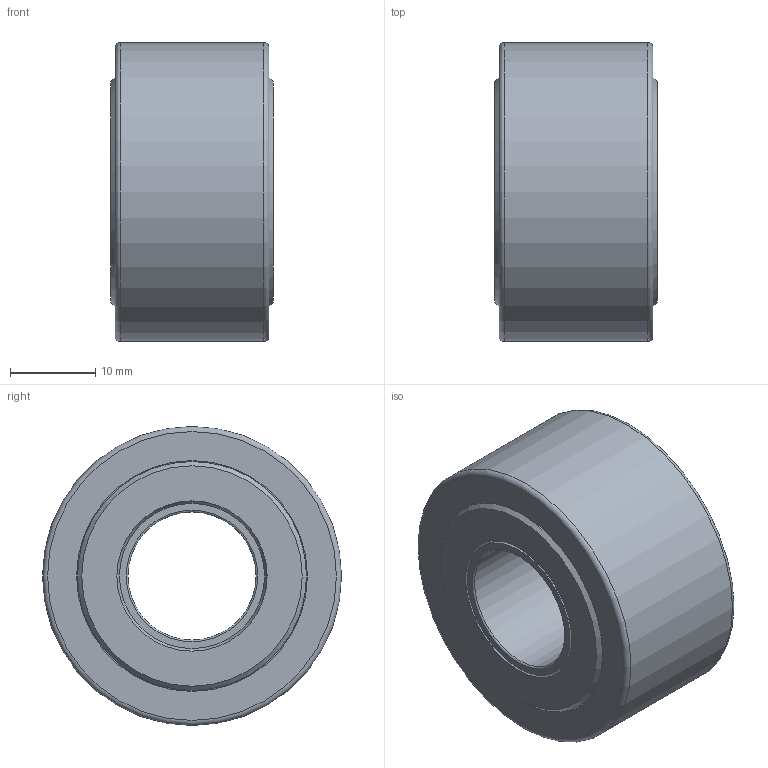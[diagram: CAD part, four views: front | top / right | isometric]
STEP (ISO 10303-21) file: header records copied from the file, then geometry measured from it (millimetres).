
FILE_DESCRIPTION(/* description */ (''),/* implementation_level */ '2;1');
FILE_NAME(/* name */ 'C:\Users\OUREHANEKD\Desktop\Ložiská 3D\MODELY\Ihlove loziska\NATR\NATR--\NATR15.stp',/* time_stamp */ '2016-10-18T14:45:00+02:00',/* author */ ('OUREHANEKD'),/* organization */ (''),/* preprocessor_version */ 'ST-DEVELOPER v15.6',/* originating_system */ 'Autodesk Inventor 2015',/* authorisation */ '');
FILE_SCHEMA (('AUTOMOTIVE_DESIGN { 1 0 10303 214 3 1 1 }'));
Length unit declared in the file: millimetre
Products named in the file (6): NATR15-01; NATR15-02; NATR15-kl; NATR15-needle; NATR15-kr; NATR15
Assembly tree (29 placements, depth 2):
  NATR15
    NATR15-01
    NATR15-02
    NATR15-kl
    NATR15-needle  x25
    NATR15-kr
Bounding box: 19 x 35 x 35 mm (x, y, z)
Volume: 14317.5 mm3; surface area: 11606.2 mm2
Topology: 30 solids, 30 shells, 111 faces, 133 edges, 86 vertices
Faces by surface type: plane 64, cylinder 39, torus 4, cone 4
Full cylindrical faces by diameter (mm): 1.8 x25, 15 x1, 17 x4, 18.2 x1, 18.704 x1, 21.296 x1, 21.8 x1, 26.8 x2, 27 x2, 35 x1
Entity records: 1113 total; most frequent: DIRECTION 224, CARTESIAN_POINT 150, AXIS2_PLACEMENT_3D 112, EDGE_LOOP 76, ORIENTED_EDGE 76, FACE_OUTER_BOUND 39, ADVANCED_FACE 39, CIRCLE 38
